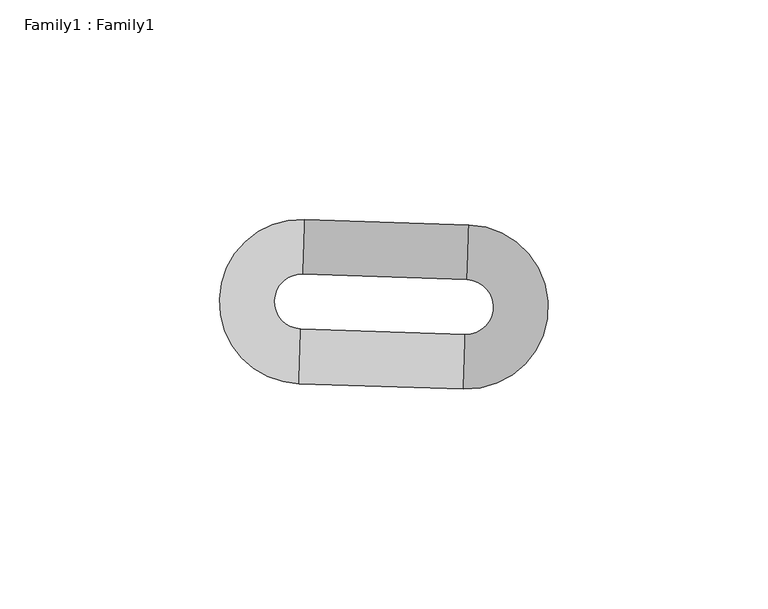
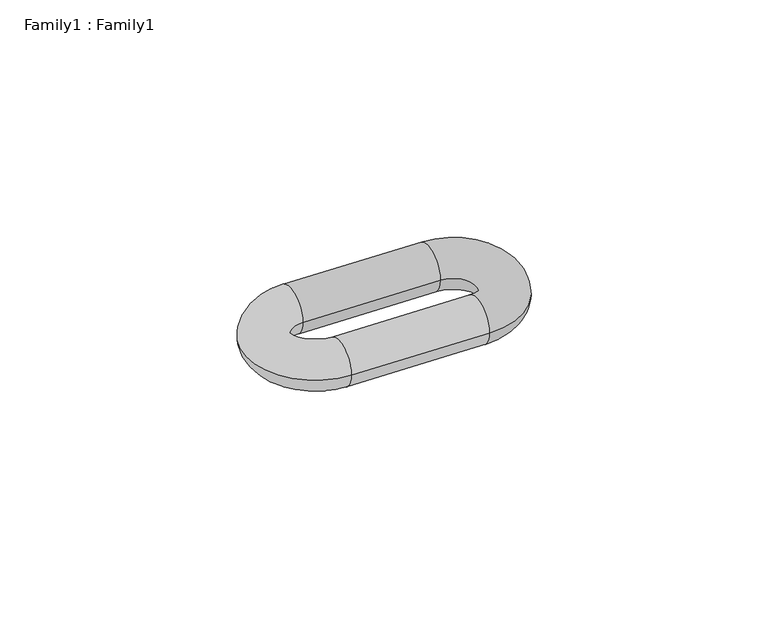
"""IFC4 building model written with IfcOpenShell, lengths in millimetres: proxy geometry, Family1 : Family1."""

from ifc_helpers import new_model, si_unit, point, frame, origin, place, context, project, spatial, circle_curve, ellipse_curve, trimmed, source, transform, mapped, element, save
from ifc_brep_helpers import cylinder_surface, revolved_surface, advanced_brep


def family1_family1_d3af85bb(model_context):
    return source(origin(), model_context, "Body", "AdvancedBrep", [
        advanced_brep(
        [(1383.7469042, 2173.5218865, 0.0), (1384.9895776, 2210.9806616, 0.0), (1384.5753531, 2198.4944032, 0.0), (1384.1611287, 2186.0081449, 0.0), (1346.6748779, 2187.2517298, 0.0), (1346.2606534, 2174.7654714, 0.0), (1347.5033268, 2212.2242464, 0.0), (1347.0891023, 2199.7379881, 0.0)],
        [
            (0, 1, circle_curve(frame((1384.3682409, 2192.251274, 0.0), z_axis=(0.0, 0.0, 1.0), x_axis=(0.03315618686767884, 0.9994501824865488, 0.0)), 18.7396909)),
            (1, 2, circle_curve(frame((1384.7824654, 2204.7375324, 0.0), z_axis=(0.9994501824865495, -0.03315618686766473, 0.0), x_axis=(0.03315618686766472, 0.9994501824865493, 0.0)), 6.2465636)),
            (2, 3, circle_curve(frame((1384.3682409, 2192.251274, 0.0), z_axis=(0.0, 0.0, -1.0), x_axis=(0.03315618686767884, 0.9994501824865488, 0.0)), 6.2465636)),
            (3, 0, circle_curve(frame((1383.9540164, 2179.7650157, 0.0), z_axis=(0.9994501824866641, -0.033156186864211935, 0.0), x_axis=(-0.03315618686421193, -0.9994501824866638, 0.0)), 6.2465636)),
            (2, 1, circle_curve(frame((1384.7824654, 2204.7375324, 0.0), z_axis=(0.9994501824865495, -0.03315618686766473, 0.0), x_axis=(0.03315618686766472, 0.9994501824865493, 0.0)), 6.2465636)),
            (0, 3, circle_curve(frame((1383.9540164, 2179.7650157, 0.0), z_axis=(0.999450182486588, -0.03315618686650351, 0.0), x_axis=(-0.033156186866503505, -0.9994501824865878, 0.0)), 6.2465636)),
            (3, 4),
            (4, 5, circle_curve(frame((1346.4677656, 2181.0086006, 0.0), z_axis=(0.9994501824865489, -0.033156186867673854, 0.0), x_axis=(-0.033156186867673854, -0.9994501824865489, 0.0)), 6.2465636)),
            (5, 0),
            (5, 4, circle_curve(frame((1346.4677656, 2181.0086006, 0.0), z_axis=(0.9994501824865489, -0.033156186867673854, 0.0), x_axis=(-0.033156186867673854, -0.9994501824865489, 0.0)), 6.2465636)),
            (6, 5, circle_curve(frame((1346.8819901, 2193.4948589, 0.0), z_axis=(0.0, 0.0, 1.0), x_axis=(-0.03315618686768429, -0.9994501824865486, 0.0)), 18.7396909)),
            (4, 7, circle_curve(frame((1346.8819901, 2193.4948589, 0.0), z_axis=(0.0, 0.0, -1.0), x_axis=(-0.03315618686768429, -0.9994501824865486, 0.0)), 6.2465636)),
            (7, 6, circle_curve(frame((1347.2962146, 2205.9811173, 0.0), z_axis=(-0.9994501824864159, 0.03315618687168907, 0.0), x_axis=(0.033156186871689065, 0.9994501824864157, 0.0)), 6.2465636)),
            (6, 7, circle_curve(frame((1347.2962146, 2205.9811173, 0.0), z_axis=(-0.999450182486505, 0.03315618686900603, 0.0), x_axis=(0.033156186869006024, 0.9994501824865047, 0.0)), 6.2465636)),
            (7, 2),
            (1, 6),
        ],
        [
            revolved_surface(trimmed(ellipse_curve(frame((1384.7824654, 2204.7375324, 0.0), z_axis=(-0.9994501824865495, 0.03315618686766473, 0.0), x_axis=(0.03315618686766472, 0.9994501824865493, 0.0)), 6.2465636, 6.2465636), [point((1384.5753531, 2198.4944032, 0.0))], [point((1384.9895776, 2210.9806616, 0.0))], True, "CARTESIAN"), (1384.3682409, 2192.251274, 0.0), (0.0, 0.0, -1.0000000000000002)),
            revolved_surface(trimmed(ellipse_curve(frame((1384.7824654, 2204.7375324, 0.0), z_axis=(-0.9994501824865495, 0.03315618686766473, 0.0), x_axis=(0.03315618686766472, 0.9994501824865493, 0.0)), 6.2465636, 6.2465636), [point((1384.9895776, 2210.9806616, 0.0))], [point((1384.5753531, 2198.4944032, 0.0))], True, "CARTESIAN"), (1384.3682409, 2192.251274, 0.0), (0.0, 0.0, -1.0000000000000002)),
            cylinder_surface(frame((1383.9540164, 2179.7650157, 0.0), z_axis=(0.9994501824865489, -0.033156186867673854, 0.0), x_axis=(-0.033156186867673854, -0.9994501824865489, 0.0)), 6.2465636),
            revolved_surface(trimmed(ellipse_curve(frame((1346.4677656, 2181.0086006, 0.0), z_axis=(0.9994501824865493, -0.033156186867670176, 0.0), x_axis=(-0.03315618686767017, -0.999450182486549, 0.0)), 6.2465636, 6.2465636), [point((1346.6748779, 2187.2517298, 0.0))], [point((1346.2606534, 2174.7654714, 0.0))], True, "CARTESIAN"), (1346.8819901, 2193.4948589, 0.0), (0.0, 0.0, -1.0000000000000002)),
            revolved_surface(trimmed(ellipse_curve(frame((1346.4677656, 2181.0086006, 0.0), z_axis=(0.9994501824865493, -0.033156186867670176, 0.0), x_axis=(-0.03315618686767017, -0.999450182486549, 0.0)), 6.2465636, 6.2465636), [point((1346.2606534, 2174.7654714, 0.0))], [point((1346.6748779, 2187.2517298, 0.0))], True, "CARTESIAN"), (1346.8819901, 2193.4948589, 0.0), (0.0, 0.0, -1.0000000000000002)),
            cylinder_surface(frame((1347.2962146, 2205.9811173, 0.0), z_axis=(-0.9994501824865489, 0.033156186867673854, 0.0), x_axis=(0.033156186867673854, 0.9994501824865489, 0.0)), 6.2465636),
        ],
        [
            (0, [[1, 2, 3, 4]]),
            (1, [[-3, 5, -1, 6]]),
            (2, [[-4, 7, 8, 9]]),
            (2, [[-6, -9, 10, -7]]),
            (3, [[11, -8, 12, 13]]),
            (4, [[-12, -10, -11, 14]]),
            (5, [[-13, 15, -2, 16]]),
            (5, [[-14, -16, -5, -15]]),
        ],
    ),
    ])


if __name__ == "__main__":
    model = new_model("IFC4")
    model_context = context("Model", 3, world=origin())
    ifc_project = project(units=[si_unit("LENGTHUNIT", "METRE", prefix="MILLI")], contexts=[model_context])
    site = spatial("IfcSite", under=ifc_project)
    building = spatial("IfcBuilding", under=site)
    placement = place(None, origin())
    family1_family1_shape = family1_family1_d3af85bb(model_context)
    element("IfcBuildingElementProxy", 1, Name="Family1 : Family1", ObjectType="Family1 : Family1", at=placement, inside=building, context=model_context, shape_type="MappedRepresentation", body=[
        mapped(family1_family1_shape, transform((0.0, 0.0, 0.0), x_axis=(1.0, 0.0, 0.0), y_axis=(0.0, 1.0, 0.0), z_axis=(0.0, 0.0, 1.0))),
    ])
    save(model, "model.ifc")
